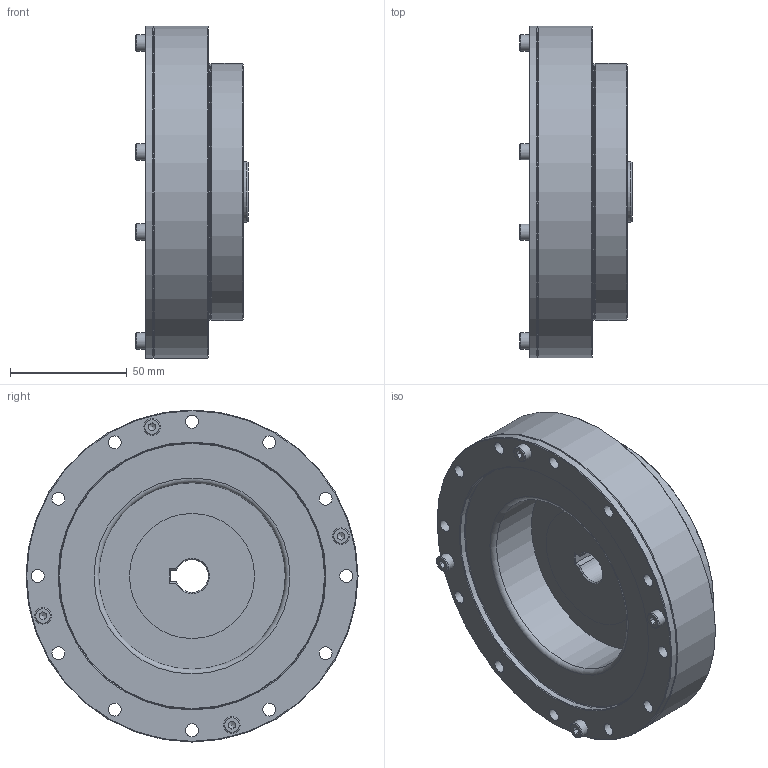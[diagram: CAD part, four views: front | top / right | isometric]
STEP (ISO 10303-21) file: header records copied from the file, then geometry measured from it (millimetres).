
FILE_DESCRIPTION(/* description */ (''),/* implementation_level */ '2;1');
FILE_NAME(/* name */ 'S:\TB00F\研發課二組\機密級\97.\X2\540C4EC151714EAB5340\X0\ (機密級)\H11\欣怡\2023專案追蹤\2.型錄\模型\\X2\5B987DB2\X0\3D檔(NEW)\DSH-PO(14-40)\DSH-32-XX-PO.stp',/* time_stamp */ '2024-10-23T18:20:32+08:00',/* author */ ('bb1128.zheng'),/* organization */ (''),/* preprocessor_version */ 'ST-DEVELOPER v15.2',/* originating_system */ 'Autodesk Inventor 2014',/* authorisation */ '');
FILE_SCHEMA (('AUTOMOTIVE_DESIGN { 1 0 10303 214 3 1 1 }'));
Length unit declared in the file: centimetre
Products named in the file (1): DSH-32-XX-PO
Bounding box: 48 x 142 x 142 mm (x, y, z)
Volume: 401111.6 mm3; surface area: 74736.7 mm2
Topology: 1 solids, 1 shells, 453 faces, 1104 edges, 694 vertices
Faces by surface type: cylinder 185, plane 149, torus 57, cone 39, sphere 23
Full cylindrical faces by diameter (mm): 2 x2, 4.134 x16, 5.5 x40, 7 x8, 8 x4, 24.9 x1, 26 x1, 35 x2, 53.5 x1, 63.04 x1, 75.82 x1, 79.75 x2, 110 x2, 114 x1, 122 x1, 142 x2
Entity records: 12218 total; most frequent: DIRECTION 2268, CARTESIAN_POINT 1974, ORIENTED_EDGE 1770, AXIS2_PLACEMENT_3D 1023, EDGE_CURVE 839, EDGE_LOOP 676, VERTEX_POINT 585, CIRCLE 565
